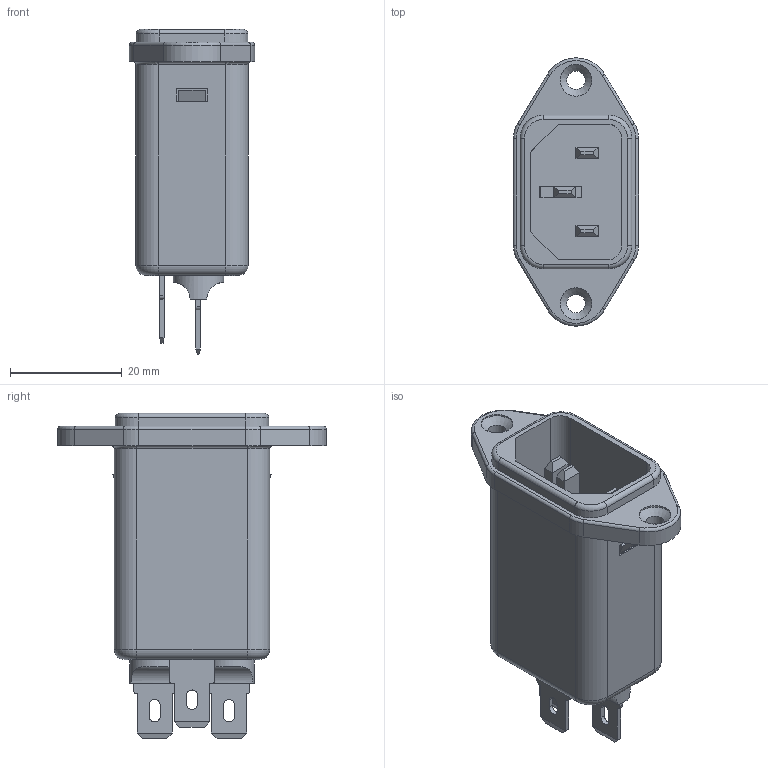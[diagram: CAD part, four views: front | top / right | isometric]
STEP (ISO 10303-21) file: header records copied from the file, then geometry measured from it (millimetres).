
FILE_DESCRIPTION((''),'2;1');
FILE_NAME('D:\_ PRODUCT\FN_PART_FOR_FN9222-XX-07\FN_UPDATE\DB_06 version_Update\3D_inventer\234-176C\FN9222-XX-06.stp','2012-01-10T08:33:16',('sayan.penton'),(''),'Autodesk Inventor 2010','Autodesk Inventor 2010','');
FILE_SCHEMA(('AUTOMOTIVE_DESIGN { 1 0 10303 214 1 1 1 1 }'));
Length unit declared in the file: millimetre
Products named in the file (1): Part1
Bounding box: 22.4 x 48 x 58.2 mm (x, y, z)
Volume: 8394.6 mm3; surface area: 18029.1 mm2
Topology: 1 solids, 3 shells, 590 faces, 1609 edges, 1030 vertices
Faces by surface type: plane 412, cylinder 131, bspline 23, torus 22, cone 2
Full cylindrical faces by diameter (mm): 3.3 x2, 4 x2, 5.7 x2, 9 x2, 9.5 x2
Entity records: 19437 total; most frequent: CARTESIAN_POINT 3716, ORIENTED_EDGE 3190, DIRECTION 3026, EDGE_CURVE 1595, VECTOR 1268, LINE 1268, VERTEX_POINT 1028, AXIS2_PLACEMENT_3D 879
